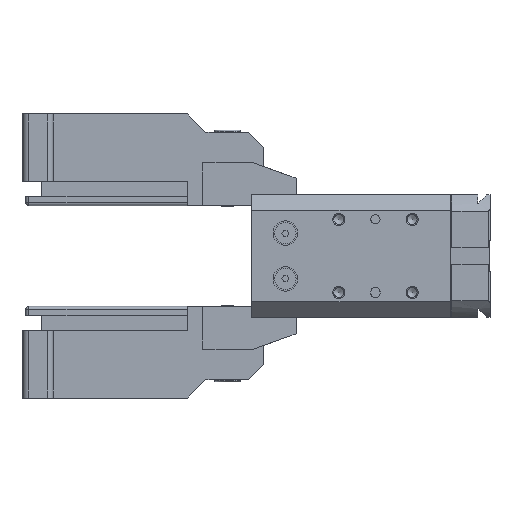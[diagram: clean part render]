
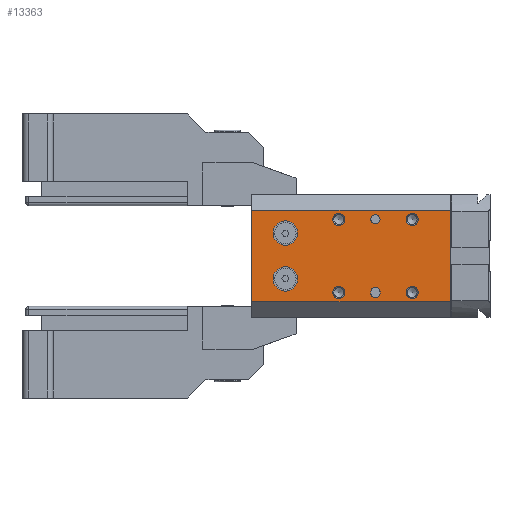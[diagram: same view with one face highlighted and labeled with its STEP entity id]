
A CAD part, left-side view. The second image highlights one B-rep face of the part: STEP entity #13363.
In plain terms, the highlighted planar face has unit normal (-1, 0, 0).
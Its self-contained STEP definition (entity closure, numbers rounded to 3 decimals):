
#478=FACE_BOUND('',#2226,.T.);
#479=FACE_BOUND('',#2227,.T.);
#480=FACE_BOUND('',#2228,.T.);
#481=FACE_BOUND('',#2229,.T.);
#482=FACE_BOUND('',#2230,.T.);
#483=FACE_BOUND('',#2231,.T.);
#484=FACE_BOUND('',#2232,.T.);
#485=FACE_BOUND('',#2233,.T.);
#780=PLANE('',#14488);
#1438=FACE_OUTER_BOUND('',#2225,.T.);
#2225=EDGE_LOOP('',(#11101,#11102,#11103,#11104));
#2226=EDGE_LOOP('',(#11105,#11106,#11107,#11108));
#2227=EDGE_LOOP('',(#11109));
#2228=EDGE_LOOP('',(#11110));
#2229=EDGE_LOOP('',(#11111));
#2230=EDGE_LOOP('',(#11112));
#2231=EDGE_LOOP('',(#11113));
#2232=EDGE_LOOP('',(#11114));
#2233=EDGE_LOOP('',(#11115));
#3021=CIRCLE('',#14456,1.5);
#3023=CIRCLE('',#14460,1.5);
#3025=CIRCLE('',#14464,1.5);
#3029=CIRCLE('',#14485,4.);
#3031=CIRCLE('',#14489,4.);
#3032=CIRCLE('',#14490,2.);
#3033=CIRCLE('',#14491,2.);
#3034=CIRCLE('',#14492,2.);
#3035=CIRCLE('',#14493,2.);
#3924=LINE('',#21981,#5209);
#3929=LINE('',#21995,#5214);
#3971=LINE('',#22100,#5256);
#3972=LINE('',#22102,#5257);
#3973=LINE('',#22104,#5258);
#3974=LINE('',#22105,#5259);
#5209=VECTOR('',#16531,10.);
#5214=VECTOR('',#16544,10.);
#5256=VECTOR('',#16646,10.);
#5257=VECTOR('',#16647,10.);
#5258=VECTOR('',#16648,10.);
#5259=VECTOR('',#16649,10.);
#6496=VERTEX_POINT('',#21979);
#6497=VERTEX_POINT('',#21980);
#6500=VERTEX_POINT('',#21988);
#6502=VERTEX_POINT('',#21994);
#6504=VERTEX_POINT('',#22004);
#6532=VERTEX_POINT('',#22091);
#6534=VERTEX_POINT('',#22098);
#6535=VERTEX_POINT('',#22099);
#6536=VERTEX_POINT('',#22101);
#6537=VERTEX_POINT('',#22103);
#6538=VERTEX_POINT('',#22106);
#6539=VERTEX_POINT('',#22108);
#6540=VERTEX_POINT('',#22110);
#6541=VERTEX_POINT('',#22112);
#6542=VERTEX_POINT('',#22114);
#8106=EDGE_CURVE('',#6496,#6497,#3924,.T.);
#8110=EDGE_CURVE('',#6500,#6496,#3021,.T.);
#8113=EDGE_CURVE('',#6502,#6500,#3929,.T.);
#8116=EDGE_CURVE('',#6497,#6502,#3023,.T.);
#8118=EDGE_CURVE('',#6504,#6504,#3025,.T.);
#8160=EDGE_CURVE('',#6532,#6532,#3029,.T.);
#8163=EDGE_CURVE('',#6534,#6535,#3971,.T.);
#8164=EDGE_CURVE('',#6534,#6536,#3972,.T.);
#8165=EDGE_CURVE('',#6537,#6536,#3973,.T.);
#8166=EDGE_CURVE('',#6535,#6537,#3974,.T.);
#8167=EDGE_CURVE('',#6538,#6538,#3031,.T.);
#8168=EDGE_CURVE('',#6539,#6539,#3032,.T.);
#8169=EDGE_CURVE('',#6540,#6540,#3033,.T.);
#8170=EDGE_CURVE('',#6541,#6541,#3034,.T.);
#8171=EDGE_CURVE('',#6542,#6542,#3035,.T.);
#11101=ORIENTED_EDGE('',*,*,#8163,.F.);
#11102=ORIENTED_EDGE('',*,*,#8164,.T.);
#11103=ORIENTED_EDGE('',*,*,#8165,.F.);
#11104=ORIENTED_EDGE('',*,*,#8166,.F.);
#11105=ORIENTED_EDGE('',*,*,#8106,.T.);
#11106=ORIENTED_EDGE('',*,*,#8116,.T.);
#11107=ORIENTED_EDGE('',*,*,#8113,.T.);
#11108=ORIENTED_EDGE('',*,*,#8110,.T.);
#11109=ORIENTED_EDGE('',*,*,#8118,.T.);
#11110=ORIENTED_EDGE('',*,*,#8167,.T.);
#11111=ORIENTED_EDGE('',*,*,#8168,.T.);
#11112=ORIENTED_EDGE('',*,*,#8169,.T.);
#11113=ORIENTED_EDGE('',*,*,#8170,.T.);
#11114=ORIENTED_EDGE('',*,*,#8171,.T.);
#11115=ORIENTED_EDGE('',*,*,#8160,.T.);
#13363=ADVANCED_FACE('',(#1438,#478,#479,#480,#481,#482,#483,#484,#485),
#780,.T.);
#14456=AXIS2_PLACEMENT_3D('',#21989,#16537,#16538);
#14460=AXIS2_PLACEMENT_3D('',#22000,#16549,#16550);
#14464=AXIS2_PLACEMENT_3D('',#22005,#16557,#16558);
#14485=AXIS2_PLACEMENT_3D('',#22092,#16637,#16638);
#14488=AXIS2_PLACEMENT_3D('',#22097,#16644,#16645);
#14489=AXIS2_PLACEMENT_3D('',#22107,#16650,#16651);
#14490=AXIS2_PLACEMENT_3D('',#22109,#16652,#16653);
#14491=AXIS2_PLACEMENT_3D('',#22111,#16654,#16655);
#14492=AXIS2_PLACEMENT_3D('',#22113,#16656,#16657);
#14493=AXIS2_PLACEMENT_3D('',#22115,#16658,#16659);
#16531=DIRECTION('',(0.,0.,1.));
#16537=DIRECTION('center_axis',(1.,0.,0.));
#16538=DIRECTION('ref_axis',(0.,-1.,0.));
#16544=DIRECTION('',(0.,0.,-1.));
#16549=DIRECTION('center_axis',(1.,0.,0.));
#16550=DIRECTION('ref_axis',(0.,1.,0.));
#16557=DIRECTION('center_axis',(1.,0.,0.));
#16558=DIRECTION('ref_axis',(0.,1.,0.));
#16637=DIRECTION('center_axis',(1.,0.,0.));
#16638=DIRECTION('ref_axis',(0.,0.,1.));
#16644=DIRECTION('center_axis',(-1.,0.,0.));
#16645=DIRECTION('ref_axis',(0.,0.,-1.));
#16646=DIRECTION('',(0.,0.,1.));
#16647=DIRECTION('',(0.,-1.,0.));
#16648=DIRECTION('',(0.,0.,-1.));
#16649=DIRECTION('',(0.,-1.,0.));
#16650=DIRECTION('center_axis',(1.,0.,0.));
#16651=DIRECTION('ref_axis',(0.,0.,1.));
#16652=DIRECTION('center_axis',(1.,0.,0.));
#16653=DIRECTION('ref_axis',(0.,0.,1.));
#16654=DIRECTION('center_axis',(1.,0.,0.));
#16655=DIRECTION('ref_axis',(0.,0.,1.));
#16656=DIRECTION('center_axis',(1.,0.,0.));
#16657=DIRECTION('ref_axis',(0.,0.,1.));
#16658=DIRECTION('center_axis',(1.,0.,0.));
#16659=DIRECTION('ref_axis',(0.,0.,1.));
#21979=CARTESIAN_POINT('',(-20.,26.,-12.25));
#21980=CARTESIAN_POINT('',(-20.,26.,-11.75));
#21981=CARTESIAN_POINT('',(-20.,26.,1.375));
#21988=CARTESIAN_POINT('',(-20.,23.,-12.25));
#21989=CARTESIAN_POINT('Origin',(-20.,24.5,-12.25));
#21994=CARTESIAN_POINT('',(-20.,23.,-11.75));
#21995=CARTESIAN_POINT('',(-20.,23.,1.625));
#22000=CARTESIAN_POINT('Origin',(-20.,24.5,-11.75));
#22004=CARTESIAN_POINT('',(-20.,23.,12.));
#22005=CARTESIAN_POINT('Origin',(-20.,24.5,12.));
#22091=CARTESIAN_POINT('',(-20.,54.,3.5));
#22092=CARTESIAN_POINT('Origin',(-20.,54.,7.5));
#22097=CARTESIAN_POINT('Origin',(-20.,65.,15.));
#22098=CARTESIAN_POINT('',(-20.,65.,-15.));
#22099=CARTESIAN_POINT('',(-20.,65.,15.));
#22100=CARTESIAN_POINT('',(-20.,65.,-15.));
#22101=CARTESIAN_POINT('',(-20.,0.,-15.));
#22102=CARTESIAN_POINT('',(-20.,65.,-15.));
#22103=CARTESIAN_POINT('',(-20.,0.,15.));
#22104=CARTESIAN_POINT('',(-20.,0.,-15.));
#22105=CARTESIAN_POINT('',(-20.,65.,15.));
#22106=CARTESIAN_POINT('',(-20.,54.,-11.5));
#22107=CARTESIAN_POINT('Origin',(-20.,54.,-7.5));
#22108=CARTESIAN_POINT('',(-20.,12.5,10.));
#22109=CARTESIAN_POINT('Origin',(-20.,12.5,12.));
#22110=CARTESIAN_POINT('',(-20.,12.5,-14.));
#22111=CARTESIAN_POINT('Origin',(-20.,12.5,-12.));
#22112=CARTESIAN_POINT('',(-20.,36.5,10.));
#22113=CARTESIAN_POINT('Origin',(-20.,36.5,12.));
#22114=CARTESIAN_POINT('',(-20.,36.5,-14.));
#22115=CARTESIAN_POINT('Origin',(-20.,36.5,-12.));
